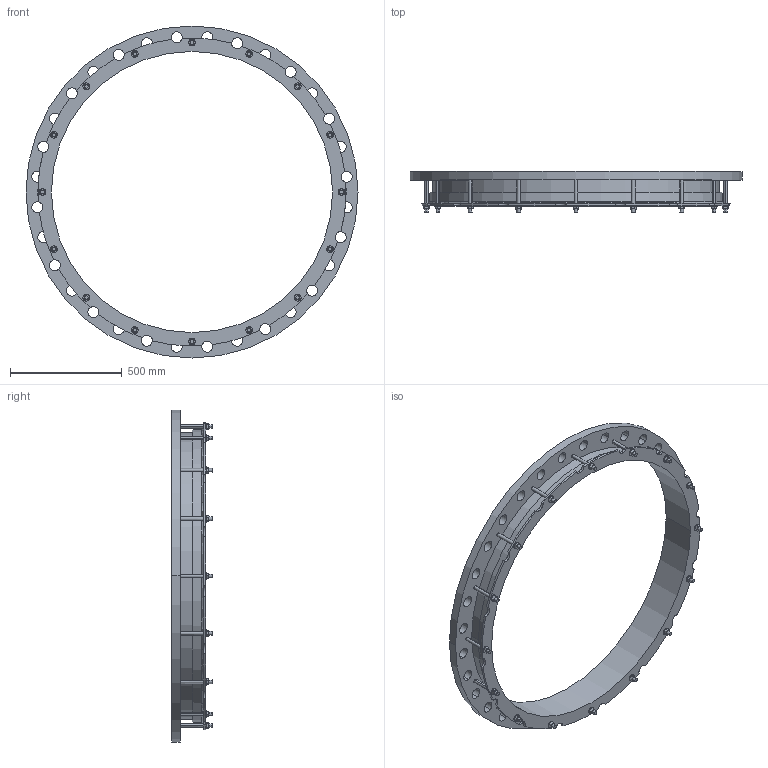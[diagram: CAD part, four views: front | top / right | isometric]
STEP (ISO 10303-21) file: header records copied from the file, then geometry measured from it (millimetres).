
FILE_DESCRIPTION((''),'2;1');
FILE_NAME('1255X1200PN16_16NOT','2019-01-17T',('mfairey'),('Glynwed Pipe Systems'),'CREO PARAMETRIC BY PTC INC, 2016130','CREO PARAMETRIC BY PTC INC, 2016130','');
FILE_SCHEMA(('CONFIG_CONTROL_DESIGN'));
Length unit declared in the file: millimetre
Products named in the file (1): 1255X1200PN16_16NOT
Bounding box: 1485 x 182 x 1485 mm (x, y, z)
Volume: 27008174.8 mm3; surface area: 2768324.6 mm2
Topology: 1 solids, 1 shells, 352 faces, 946 edges, 630 vertices
Faces by surface type: cylinder 198, plane 148, cone 4, torus 2
Entity records: 13058 total; most frequent: CARTESIAN_POINT 3774, DIRECTION 1938, ORIENTED_EDGE 1892, EDGE_CURVE 946, AXIS2_PLACEMENT_3D 724, VERTEX_POINT 630, VECTOR 490, LINE 490
